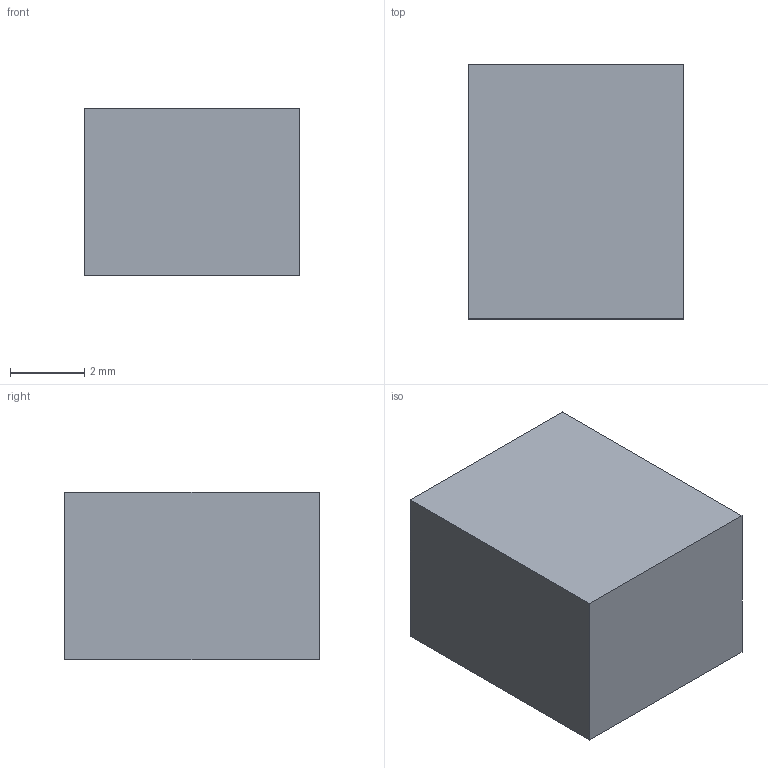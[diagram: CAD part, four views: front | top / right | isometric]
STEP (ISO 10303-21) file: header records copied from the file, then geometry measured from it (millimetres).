
FILE_DESCRIPTION(('Open CASCADE Model'),'2;1');
FILE_NAME('R36_FACTORY_BATTERY_PHR2_CATALOG_GAUGE','2026-09-15T13:40:46' ,('Author'),('Open CASCADE'),'Open CASCADE STEP processor 7.9', 'build123d','Unknown');
FILE_SCHEMA(('AUTOMOTIVE_DESIGN { 1 0 10303 214 1 1 1 1 }'));
Length unit declared in the file: millimetre
Products named in the file (2): R36_FACTORY_BATTERY_PHR2_CATALOG_GAUGE
Assembly tree (1 placements, depth 2):
  R36_FACTORY_BATTERY_PHR2_CATALOG_GAUGE
    R36_FACTORY_BATTERY_PHR2_CATALOG_GAUGE
Bounding box: 5.8 x 6.85 x 4.5 mm (x, y, z)
Volume: 178.8 mm3; surface area: 193.3 mm2
Topology: 1 solids, 1 shells, 6 faces, 12 edges, 8 vertices
Faces by surface type: plane 6
Entity records: 340 total; most frequent: CARTESIAN_POINT 52, DIRECTION 52, LINE 36, VECTOR 36, ORIENTED_EDGE 24, PCURVE 24, DEFINITIONAL_REPRESENTATION 24, EDGE_CURVE 12
